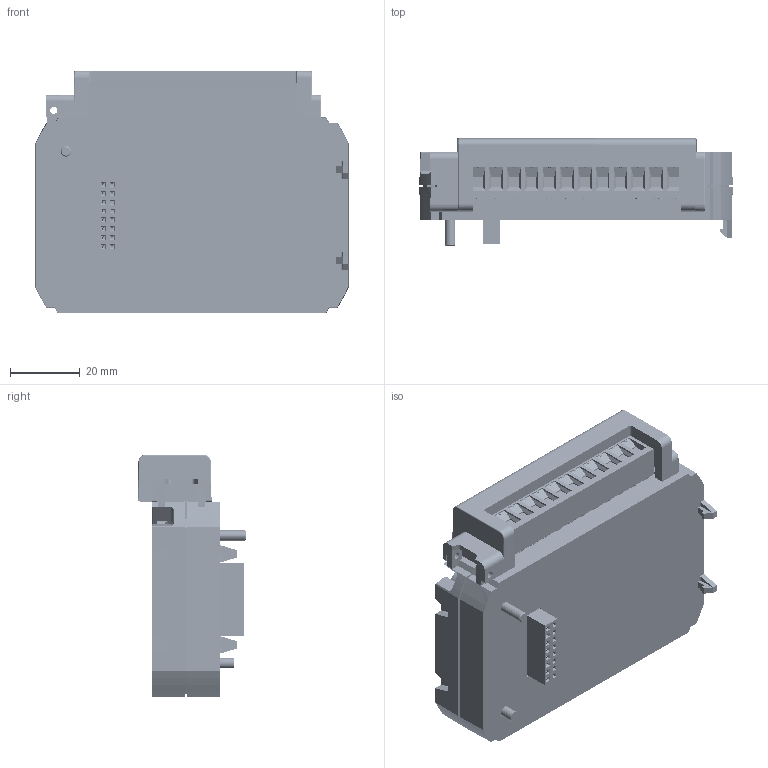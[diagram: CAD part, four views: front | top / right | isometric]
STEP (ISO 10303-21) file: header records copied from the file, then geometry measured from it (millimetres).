
FILE_DESCRIPTION (( 'STEP AP214' ), '1' );
FILE_NAME ('AXM-IO_0924.STEP', '2025-07-31T00:39:56', ( '' ), ( '' ), 'SwSTEP 2.0', 'SolidWorks 2025', '' );
FILE_SCHEMA (( 'AUTOMOTIVE_DESIGN' ));
Length unit declared in the file: millimetre
Products named in the file (9): AXM-IO_0924; XG_AF0; MOKUAI_AF0; PCB_AF0_ASM; YUMAI; LD-M3ZIZHI_AF0; GAI-QF_AF0; MKG_AF0; LD_M3X10
Assembly tree (9 placements, depth 2):
  AXM-IO_0924
    PCB_AF0_ASM
    MOKUAI_AF0
    MKG_AF0
    YUMAI  x2
    XG_AF0
    LD-M3ZIZHI_AF0
    GAI-QF_AF0
    LD_M3X10
Bounding box: 89.53 x 30.98 x 69.27 mm (x, y, z)
Volume: 29451.5 mm3; surface area: 66970.8 mm2
Topology: 8 solids, 787 shells, 24003 faces, 60290 edges, 38096 vertices
Faces by surface type: plane 13099, cylinder 4711, bspline 4561, sphere 1084, torus 384, cone 164
Entity records: 1215022 total; most frequent: CARTESIAN_POINT 414562, ORIENTED_EDGE 119040, DIRECTION 95504, EDGE_CURVE 59524, VECTOR 39880, LINE 39880, VERTEX_POINT 38084, AXIS2_PLACEMENT_3D 27812
